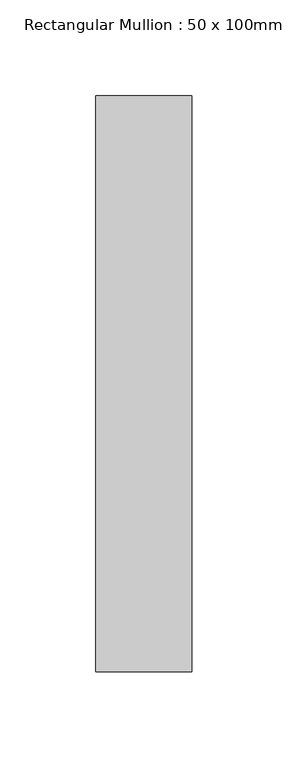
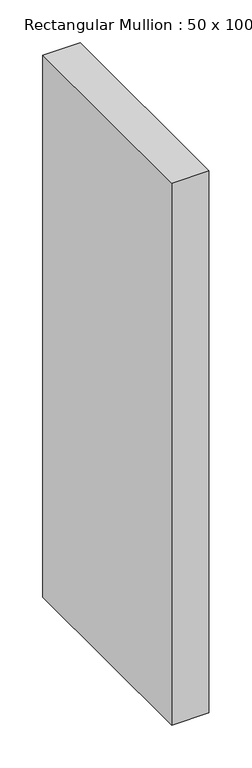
"""IFC4 building model written with IfcOpenShell, lengths in millimetres: member geometry, Rectangular Mullion : 50 x 100mm."""

from ifc_helpers import new_model, si_unit, frame, origin, place, context, project, spatial, polyline, outline, extrude, source, transform, mapped, element, save


def rectangular_mullion_50_x_100mm_bf926df8(model_context):
    return source(origin(), model_context, "Body", "SweptSolid", [
        extrude(outline(polyline([(0.0, 175.0), (0.0, -125.0), (-50.0, -125.0), (-50.0, 175.0), (0.0, 175.0)])), frame((0.0, 0.0, -771.1643399), z_axis=(0.0, 0.0, 1.0), x_axis=(1.0, 0.0, 0.0)), (0.0, 0.0, 1.0), 771.1643399),
    ])


if __name__ == "__main__":
    model = new_model("IFC4")
    model_context = context("Model", 3, world=origin())
    ifc_project = project(units=[si_unit("LENGTHUNIT", "METRE", prefix="MILLI")], contexts=[model_context])
    site = spatial("IfcSite", under=ifc_project)
    building = spatial("IfcBuilding", under=site)
    placement = place(None, origin())
    rectangular_mullion_50_x_100mm_shape = rectangular_mullion_50_x_100mm_bf926df8(model_context)
    element("IfcMember", 1, ObjectType="Rectangular Mullion : 50 x 100mm", at=placement, inside=building, context=model_context, shape_type="MappedRepresentation", body=[
        mapped(rectangular_mullion_50_x_100mm_shape, transform((0.0, 0.0, 0.0), x_axis=(1.0, 0.0, 0.0), y_axis=(0.0, 1.0, 0.0), z_axis=(0.0, 0.0, 1.0))),
    ])
    save(model, "model.ifc")
